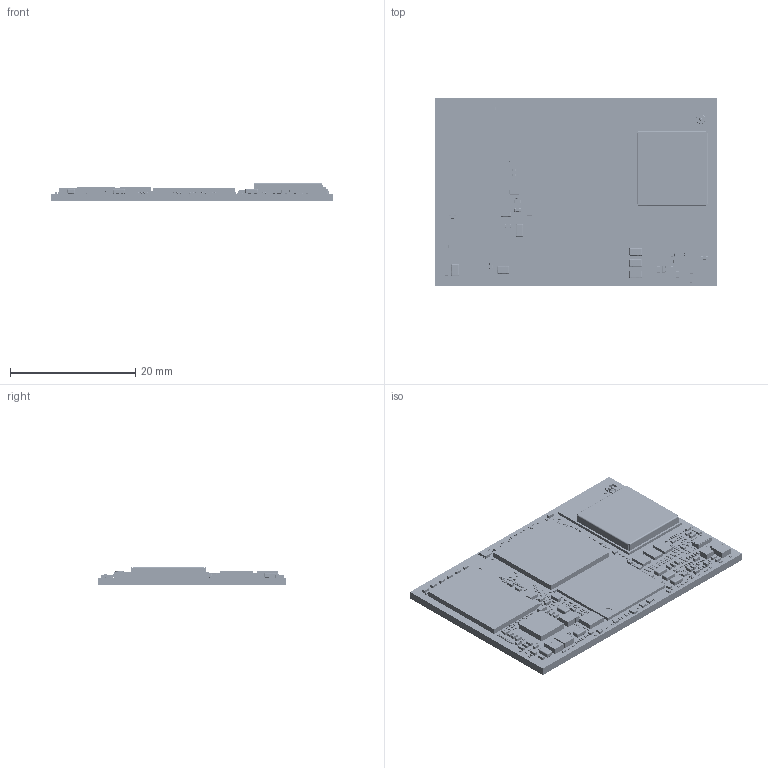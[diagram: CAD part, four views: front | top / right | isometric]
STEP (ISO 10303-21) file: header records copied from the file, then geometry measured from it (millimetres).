
FILE_DESCRIPTION(('Open CASCADE Model'),'2;1');
FILE_NAME('Open CASCADE Shape Model','2025-12-05T15:14:19',('Author'),( 'Open CASCADE'),'Open CASCADE STEP processor 7.5','Open CASCADE 7.5' ,'Unknown');
FILE_SCHEMA(('AUTOMOTIVE_DESIGN { 1 0 10303 214 1 1 1 1 }'));
Length unit declared in the file: millimetre
Products named in the file (902): PCB; Board; Open CASCADE STEP translator 7.5 2.1.1; R167; 01005_PAN; D1; 6324999952; R166; R125; Q12; CST3C_z90; Component1; Component2; Component3; Component4; R165; R164; R163; R162; R161; R160; R152; R151; R148; R146; C191; CAP0201 (0603); C190; R143; R138; R132; R131; R130; R129; R127; R126; R118; U14; SN74LVC1G08DPWR; R117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
Assembly tree (1295 placements, depth 4):
  PCB
    Board
      Open CASCADE STEP translator 7.5 2.1.1
    R167
      01005_PAN
    D1
      6324999952
    R166
      01005_PAN
    R125
      01005_PAN
    Q12
      CST3C_z90
        Component1
        Component2
        Component3
        Component4
    R165
      01005_PAN
    R164
      01005_PAN
    R163
      01005_PAN
    R162
      01005_PAN
    R161
      01005_PAN
    R160
      01005_PAN
    R152
      01005_PAN
    R151
      01005_PAN
    R148
      01005_PAN
    R146
      01005_PAN
    C191
      CAP0201 (0603)
    C190
      CAP0201 (0603)
    R143
      01005_PAN
    R138
      01005_PAN
    R132
      01005_PAN
    R131
      01005_PAN
    R130
      01005_PAN
    R129
      01005_PAN
    R127
      01005_PAN
    R126
      01005_PAN
    R118
      01005_PAN
    U14
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Bounding box: 45 x 30 x 3.03 mm (x, y, z)
Volume: 2287.1 mm3; surface area: 5979.4 mm2
Topology: 2006 solids, 2216 shells, 27174 faces, 65887 edges, 41441 vertices
Faces by surface type: plane 17557, cylinder 6947, bspline 1581, sphere 1057, torus 26, cone 6
Full cylindrical faces by diameter (mm): 0.032 x1, 0.037 x1, 0.073 x6, 0.099 x1, 0.255 x1, 1.438 x1
Entity records: 535326 total; most frequent: CARTESIAN_POINT 91148, DIRECTION 73466, ORIENTED_EDGE 72084, EDGE_CURVE 36258, AXIS2_PLACEMENT_3D 25672, VERTEX_POINT 23615, LINE 22122, VECTOR 22122
